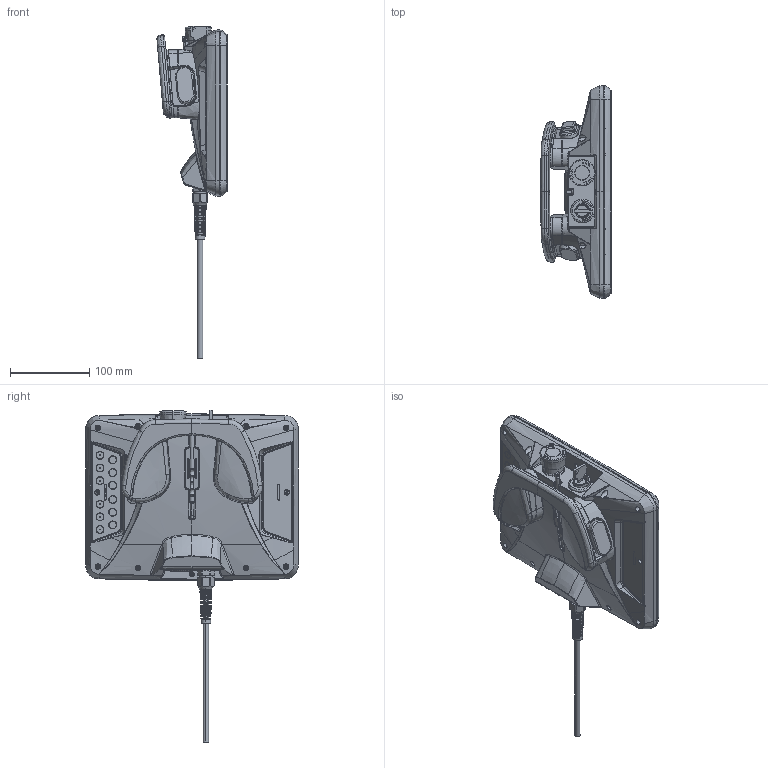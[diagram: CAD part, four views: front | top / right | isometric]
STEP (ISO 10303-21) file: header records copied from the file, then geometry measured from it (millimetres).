
FILE_DESCRIPTION (( 'STEP AP203' ), '1' );
FILE_NAME ('尨諒ん.STEP', '2022-06-23T13:33:34', ( '' ), ( '' ), 'SwSTEP 2.0', 'SolidWorks 2018', '' );
FILE_SCHEMA (( 'CONFIG_CONTROL_DESIGN' ));
Products named in the file (1): 尨諒ん
Bounding box: 88.44 x 268 x 418.5 mm (x, y, z)
Surface area: 453478.1 mm2 (no closed solid volume)
Topology: 0 solids, 79 shells, 3572 faces, 9491 edges, 6131 vertices
Faces by surface type: plane 1453, bspline 1002, cylinder 855, cone 246, sphere 10, torus 6
Entity records: 201873 total; most frequent: CARTESIAN_POINT 122660, ORIENTED_EDGE 18536, DIRECTION 12732, EDGE_CURVE 9441, VERTEX_POINT 6129, AXIS2_PLACEMENT_3D 4432, EDGE_LOOP 3904, VECTOR 3868
